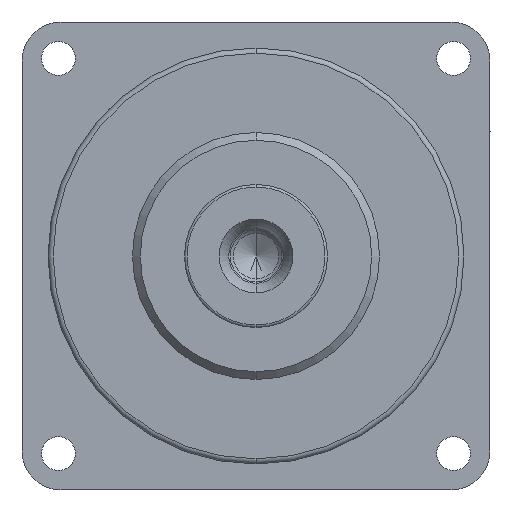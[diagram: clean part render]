
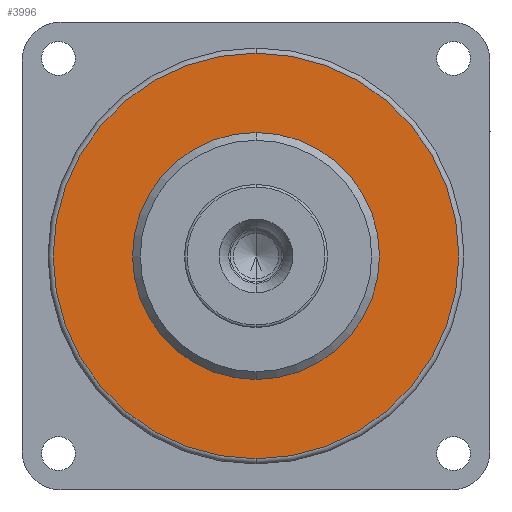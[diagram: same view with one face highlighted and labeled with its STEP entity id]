
A CAD part, left-side view. The second image highlights one B-rep face of the part: STEP entity #3996.
In plain terms, the highlighted planar face has unit normal (-1, 0, 0) as drawn and (0, 0, -1) by its records, which use the part's own axes.
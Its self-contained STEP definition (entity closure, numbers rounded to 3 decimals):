
#2723=CARTESIAN_POINT('',(0.,0.,-27.));
#2724=DIRECTION('',(0.,0.,-1.));
#2725=DIRECTION('',(0.,1.,0.));
#2726=AXIS2_PLACEMENT_3D('',#2723,#2724,#2725);
#2738=CARTESIAN_POINT('',(0.,0.,-27.));
#2739=DIRECTION('',(0.,0.,1.));
#2740=DIRECTION('',(0.,-1.,0.));
#2741=AXIS2_PLACEMENT_3D('',#2738,#2739,#2740);
#2743=CARTESIAN_POINT('',(0.,0.,-27.));
#2744=DIRECTION('',(0.,0.,1.));
#2745=DIRECTION('',(0.,1.,0.));
#2746=AXIS2_PLACEMENT_3D('',#2743,#2744,#2745);
#2748=CARTESIAN_POINT('',(0.,0.,-27.));
#2749=DIRECTION('',(0.,0.,-1.));
#2750=DIRECTION('',(0.,-1.,0.));
#2751=AXIS2_PLACEMENT_3D('',#2748,#2749,#2750);
#3755=CARTESIAN_POINT('',(0.,-78.,-27.));
#3756=CARTESIAN_POINT('',(0.,78.,-27.));
#3757=VERTEX_POINT('',#3755);
#3758=VERTEX_POINT('',#3756);
#3923=CARTESIAN_POINT('',(0.,-47.5,-27.));
#3924=CARTESIAN_POINT('',(0.,47.5,-27.));
#3925=VERTEX_POINT('',#3923);
#3926=VERTEX_POINT('',#3924);
#3980=CARTESIAN_POINT('',(0.,0.,-27.));
#3981=DIRECTION('',(0.,0.,1.));
#3982=DIRECTION('',(0.,1.,0.));
#3983=AXIS2_PLACEMENT_3D('',#3980,#3981,#3982);
#3984=PLANE('',#3983);
#3986=ORIENTED_EDGE('',*,*,#3985,.F.);
#3987=ORIENTED_EDGE('',*,*,#3970,.F.);
#3988=EDGE_LOOP('',(#3986,#3987));
#3989=FACE_OUTER_BOUND('',#3988,.F.);
#3991=ORIENTED_EDGE('',*,*,#3990,.F.);
#3993=ORIENTED_EDGE('',*,*,#3992,.F.);
#3994=EDGE_LOOP('',(#3991,#3993));
#3995=FACE_BOUND('',#3994,.F.);
#3996=ADVANCED_FACE('',(#3989,#3995),#3984,.F.);
#2727=CIRCLE('',#2726,78.);
#2742=CIRCLE('',#2741,47.5);
#2747=CIRCLE('',#2746,47.5);
#2752=CIRCLE('',#2751,78.);
#3970=EDGE_CURVE('',#3758,#3757,#2727,.T.);
#3985=EDGE_CURVE('',#3757,#3758,#2752,.T.);
#3990=EDGE_CURVE('',#3925,#3926,#2742,.T.);
#3992=EDGE_CURVE('',#3926,#3925,#2747,.T.);
